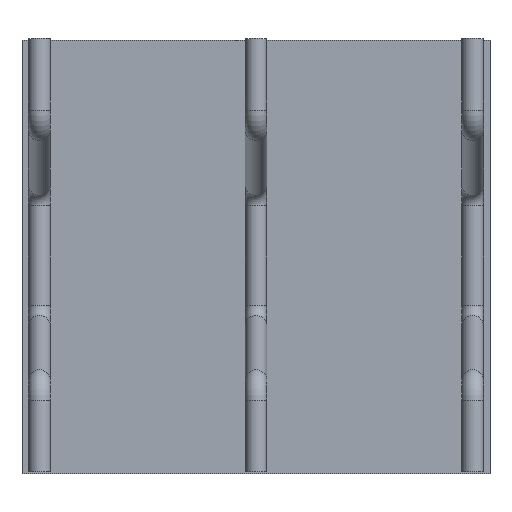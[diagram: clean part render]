
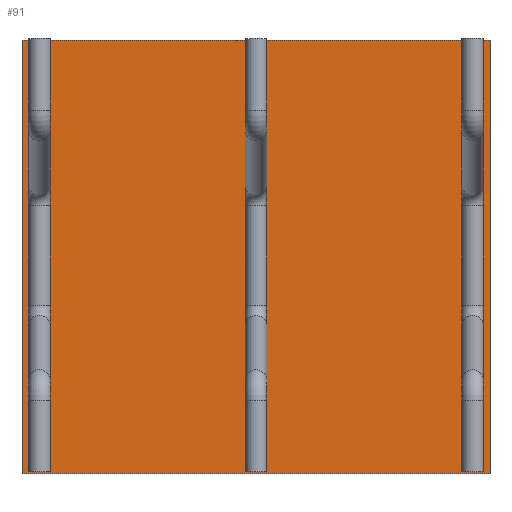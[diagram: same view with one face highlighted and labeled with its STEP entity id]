
A CAD part, top view. The second image highlights one B-rep face of the part: STEP entity #91.
In plain terms, the highlighted planar face has unit normal (0, 0, 1).
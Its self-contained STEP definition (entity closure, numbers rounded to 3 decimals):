
#52=CARTESIAN_POINT('Axis2P3D Location',(0.,0.,0.)) ;
#57=CARTESIAN_POINT('Line Origine',(0.,500.,0.)) ;
#61=CARTESIAN_POINT('Vertex',(540.,500.,0.)) ;
#63=CARTESIAN_POINT('Vertex',(-540.,500.,0.)) ;
#66=CARTESIAN_POINT('Line Origine',(-540.,0.,0.)) ;
#70=CARTESIAN_POINT('Vertex',(-540.,-500.,0.)) ;
#73=CARTESIAN_POINT('Line Origine',(0.,-500.,0.)) ;
#77=CARTESIAN_POINT('Vertex',(540.,-500.,0.)) ;
#80=CARTESIAN_POINT('Line Origine',(540.,0.,0.)) ;
#53=DIRECTION('Axis2P3D Direction',(0.,0.,1.)) ;
#54=DIRECTION('Axis2P3D XDirection',(1.,0.,0.)) ;
#58=DIRECTION('Vector Direction',(1.,0.,0.)) ;
#67=DIRECTION('Vector Direction',(0.,1.,0.)) ;
#74=DIRECTION('Vector Direction',(-1.,0.,0.)) ;
#81=DIRECTION('Vector Direction',(0.,-1.,0.)) ;
#55=AXIS2_PLACEMENT_3D('Plane Axis2P3D',#52,#53,#54) ;
#86=ORIENTED_EDGE('',*,*,#65,.T.) ;
#87=ORIENTED_EDGE('',*,*,#72,.T.) ;
#88=ORIENTED_EDGE('',*,*,#79,.T.) ;
#89=ORIENTED_EDGE('',*,*,#84,.T.) ;
#59=VECTOR('Line Direction',#58,1.) ;
#68=VECTOR('Line Direction',#67,1.) ;
#75=VECTOR('Line Direction',#74,1.) ;
#82=VECTOR('Line Direction',#81,1.) ;
#91=ADVANCED_FACE('Fill.1',(#90),#56,.T.) ;
#65=EDGE_CURVE('',#62,#64,#60,.F.) ;
#72=EDGE_CURVE('',#64,#71,#69,.F.) ;
#79=EDGE_CURVE('',#71,#78,#76,.F.) ;
#84=EDGE_CURVE('',#78,#62,#83,.F.) ;
#85=EDGE_LOOP('',(#86,#87,#88,#89)) ;
#90=FACE_OUTER_BOUND('',#85,.T.) ;
#60=LINE('Line',#57,#59) ;
#69=LINE('Line',#66,#68) ;
#76=LINE('Line',#73,#75) ;
#83=LINE('Line',#80,#82) ;
#56=PLANE('',#55) ;
#62=VERTEX_POINT('',#61) ;
#64=VERTEX_POINT('',#63) ;
#71=VERTEX_POINT('',#70) ;
#78=VERTEX_POINT('',#77) ;
